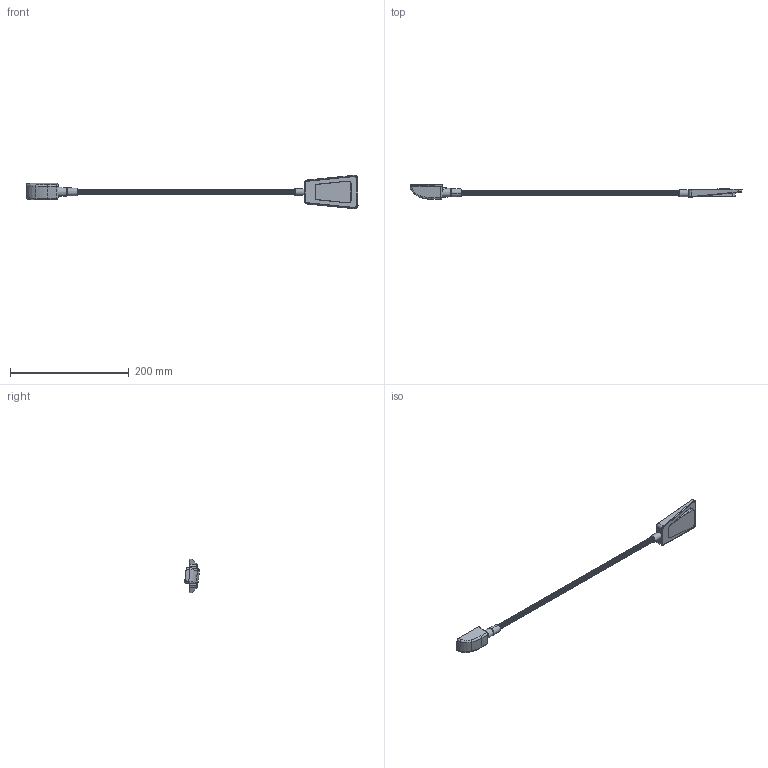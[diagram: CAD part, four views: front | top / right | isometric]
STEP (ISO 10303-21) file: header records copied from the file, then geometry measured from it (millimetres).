
FILE_DESCRIPTION(/* description */ (''),/* implementation_level */ '2;1');
FILE_NAME(/* name */ '5995322_5995323_area light.stp',/* time_stamp */ '2019-06-11T11:37:42+02:00',/* author */ (''),/* organization */ (''),/* preprocessor_version */ 'ST-DEVELOPER v16.7',/* originating_system */ 'SIEMENS PLM Software NX 12.0',/* authorisation */ '');
FILE_SCHEMA (('AUTOMOTIVE_DESIGN { 1 0 10303 214 3 1 1 1 }'));
Products named in the file (1): p.sc21B4B528x3su
Bounding box: 558.14 x 24.85 x 56.19 mm (x, y, z)
Volume: 89590.9 mm3; surface area: 34174 mm2
Topology: 1 solids, 1 shells, 439 faces, 1204 edges, 784 vertices
Faces by surface type: cylinder 241, plane 91, bspline 80, cone 9, torus 8, extrusion 8, sphere 2
Full cylindrical faces by diameter (mm): 3.7 x3, 8.2 x181, 11.43 x1, 11.6 x1
Entity records: 41188 total; most frequent: CARTESIAN_POINT 35704, ORIENTED_EDGE 1278, DIRECTION 858, EDGE_CURVE 639, VERTEX_POINT 414, AXIS2_PLACEMENT_3D 297, EDGE_LOOP 289, VECTOR 264
